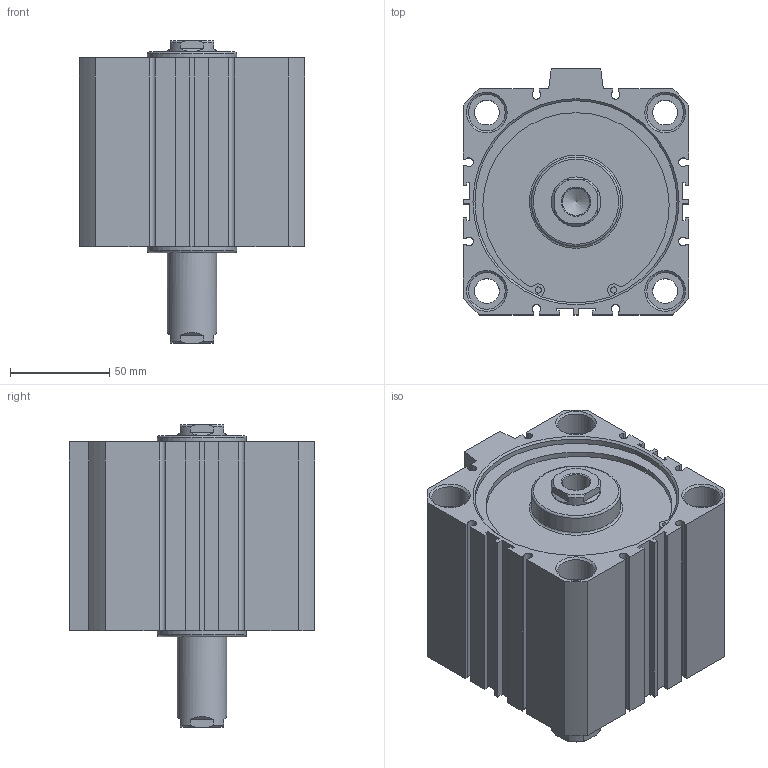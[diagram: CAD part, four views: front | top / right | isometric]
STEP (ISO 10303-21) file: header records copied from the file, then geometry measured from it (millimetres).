
FILE_DESCRIPTION((''),'2;1');
FILE_NAME('I:\3D電子目錄\氣缸\JDD\JDD-S\JDD100-S\JDD100x40-S.stp','2007-02-09T09:17:35',('662F206'),(''),'Autodesk Inventor 10','Autodesk Inventor 10','');
FILE_SCHEMA(('AUTOMOTIVE_DESIGN { 1 0 10303 214 1 1 1 1 }'));
Length unit declared in the file: millimetre
Products named in the file (3): JDD100-S; R 形環 100
Assembly tree (3 placements, depth 2):
  JDD100-S
    JDD100-S
    R 形環 100  x2
Bounding box: 114 x 124 x 152.7 mm (x, y, z)
Volume: 1086179.9 mm3; surface area: 125687.7 mm2
Topology: 3 solids, 3 shells, 200 faces, 502 edges, 330 vertices
Faces by surface type: plane 116, cylinder 52, cone 24, bspline 6, torus 2
Full cylindrical faces by diameter (mm): 3.1 x4, 3.5 x2, 12.5 x4, 18.5 x8, 25 x2, 45 x2, 102 x4, 106 x2
Entity records: 5511 total; most frequent: CARTESIAN_POINT 1094, DIRECTION 908, ORIENTED_EDGE 824, EDGE_CURVE 412, AXIS2_PLACEMENT_3D 324, VERTEX_POINT 300, EDGE_LOOP 272, VECTOR 260
